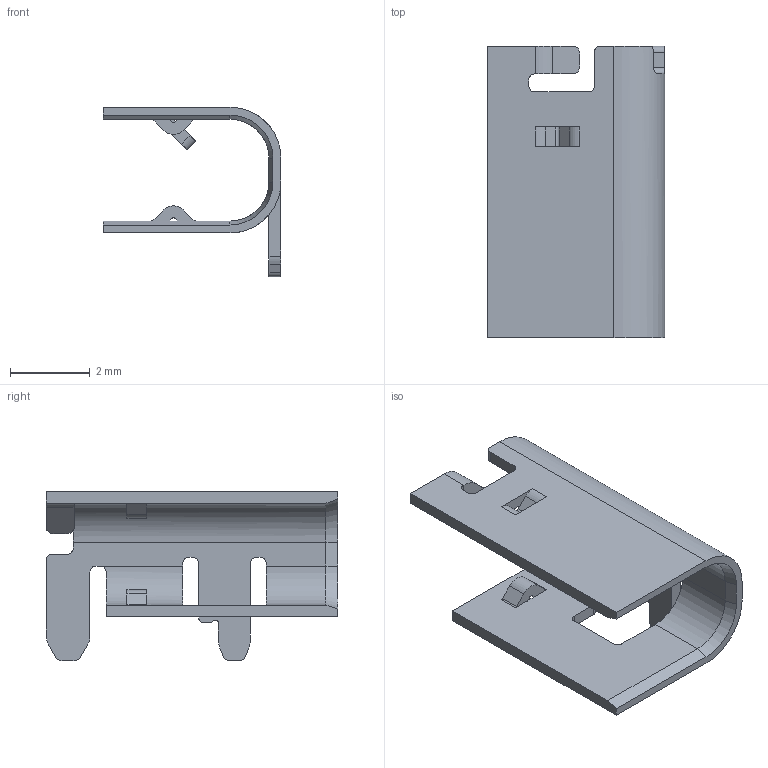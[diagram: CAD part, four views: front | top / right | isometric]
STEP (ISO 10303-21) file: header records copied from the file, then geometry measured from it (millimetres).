
FILE_DESCRIPTION(/* description */ ('STEP AP242 Edition 2','CAx-IF Rec.Pracs.---Representation and Presentation of Product Manufacturing Information (PMI)---4.0---2014-10-13','CAx-IF Rec.Pracs.---3D Tessellated Geometry---0.4---2014-09-14','2;1','CAx-IF Rec.Pracs.---User Defined Attributes---1.5---2016-08-15'),/* implementation_level */ '2;1');
FILE_NAME(/* name */ 'v2_assembly - USB_C_Receptacle_GCT_USB4105-xx-A_16P_TopMnt_Horizontal (26)',/* time_stamp */ '2026-05-19T16:26:08Z',/* author */ (''),/* organization */ (''),/* preprocessor_version */ 'ST-DEVELOPER v20',/* originating_system */ 'ONSHAPE BY PTC INC, 1.215',/* authorisation */ ' ');
FILE_SCHEMA (('AP242_MANAGED_MODEL_BASED_3D_ENGINEERING_MIM_LF { 1 0 10303 442 3 1 4 }'));
Length unit declared in the file: metre
Products named in the file (1): USB_C_Receptacle_GCT_USB4105-xx-A_16P_TopMnt_Horizontal
Bounding box: 4.47 x 7.33 x 4.26 mm (x, y, z)
Volume: 20 mm3; surface area: 153.3 mm2
Topology: 1 solids, 1 shells, 114 faces, 340 edges, 222 vertices
Faces by surface type: plane 61, cylinder 51, cone 2
Entity records: 4713 total; most frequent: CARTESIAN_POINT 729, ORIENTED_EDGE 680, DIRECTION 664, EDGE_CURVE 340, LINE 234, VECTOR 234, VERTEX_POINT 222, AXIS2_PLACEMENT_3D 215
